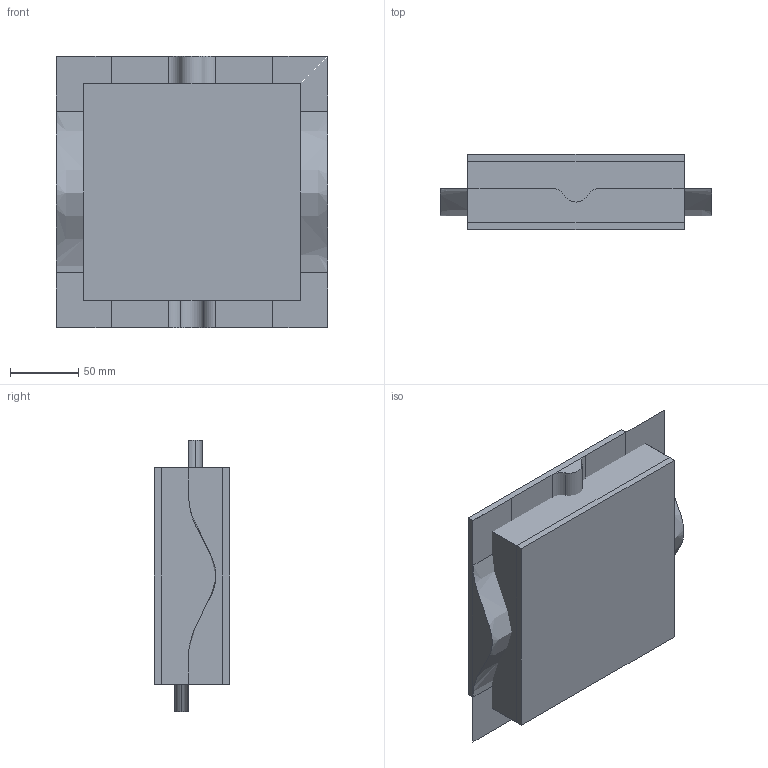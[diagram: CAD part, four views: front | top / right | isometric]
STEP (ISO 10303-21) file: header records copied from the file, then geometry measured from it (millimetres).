
FILE_DESCRIPTION(('CATIA V5 STEP Exchange'),'2;1');
FILE_NAME('C:\_Andres\UNIVERSIDAD\IQS\ASIGNATURAS\DAO\EXF\EXF-16172c\2inicio\Marinetto_Rohr_Ej02_v18.stp','2017-03-05T15:45:27+00:00',('none'),('none'),'CATIA Version 5-6 Release 2014 SP1 HF18','CATIA V5 STEP AP203','none');
FILE_SCHEMA(('CONFIG_CONTROL_DESIGN'));
Length unit declared in the file: millimetre
Products named in the file (1): Marinetto_Rohr_Ej02_v18
Bounding box: 198 x 55 x 198 mm (x, y, z)
Surface area: 252358.1 mm2
Topology: 3 solids, 10 shells, 72 faces, 205 edges, 150 vertices
Faces by surface type: bspline 32, plane 32, cylinder 6, extrusion 2
Entity records: 6152 total; most frequent: CARTESIAN_POINT 4835, ORIENTED_EDGE 288, DIRECTION 151, EDGE_CURVE 132, VERTEX_POINT 84, VECTOR 77, LINE 75, ADVANCED_FACE 72
